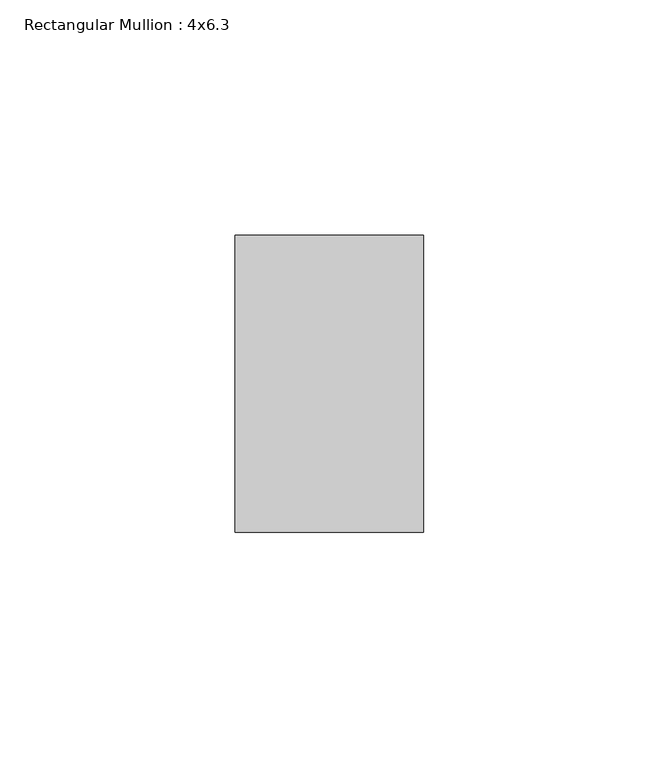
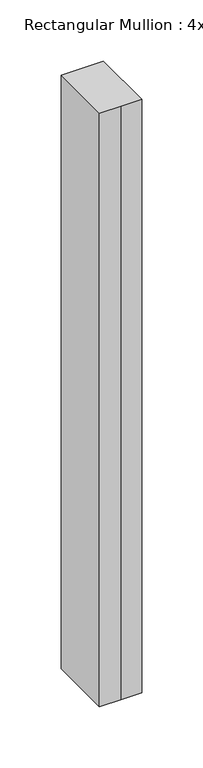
"""IFC4 building model written with IfcOpenShell, lengths in millimetres: member geometry, Rectangular Mullion : 4x6.3."""

from ifc_helpers import new_model, si_unit, frame, origin, place, context, project, spatial, polyline, outline, extrude, source, transform, mapped, element, save


def rectangular_mullion_4x6_3_b793f8e8(model_context):
    return source(origin(), model_context, "Body", "SweptSolid", [
        extrude(outline(polyline([(-20.0, 20.0), (-20.0, 83.0), (20.0, 83.0), (20.0, 20.0), (0.0, 20.0), (-20.0, 20.0)])), frame((0.0, 0.0, -593.686971), z_axis=(0.0, 0.0, 1.0), x_axis=(1.0, 0.0, 0.0)), (0.0, 0.0, 1.0), 593.686971),
    ])


if __name__ == "__main__":
    model = new_model("IFC4")
    model_context = context("Model", 3, world=origin())
    ifc_project = project(units=[si_unit("LENGTHUNIT", "METRE", prefix="MILLI")], contexts=[model_context])
    site = spatial("IfcSite", under=ifc_project)
    building = spatial("IfcBuilding", under=site)
    placement = place(None, origin())
    rectangular_mullion_4x6_3_shape = rectangular_mullion_4x6_3_b793f8e8(model_context)
    element("IfcMember", 1, ObjectType="Rectangular Mullion : 4x6.3", at=placement, inside=building, context=model_context, shape_type="MappedRepresentation", body=[
        mapped(rectangular_mullion_4x6_3_shape, transform((0.0, 0.0, 0.0), x_axis=(1.0, 0.0, 0.0), y_axis=(0.0, 1.0, 0.0), z_axis=(0.0, 0.0, 1.0))),
    ])
    save(model, "model.ifc")
